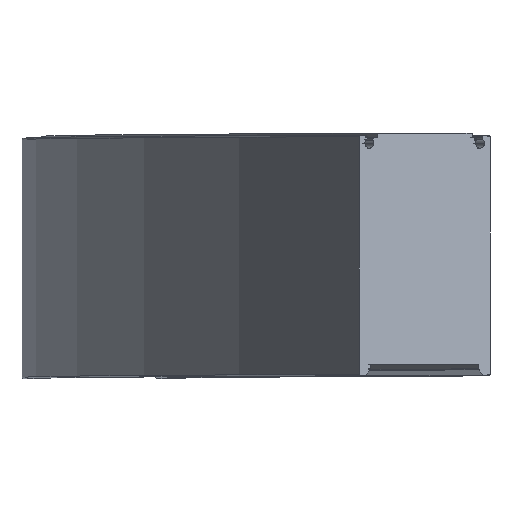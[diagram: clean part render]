
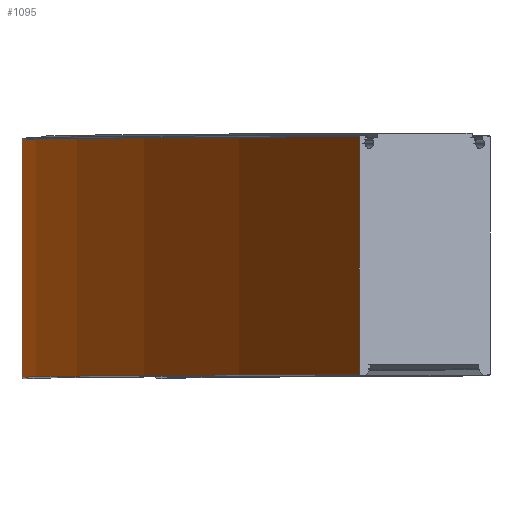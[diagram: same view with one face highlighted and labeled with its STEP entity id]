
A CAD part, top view. The second image highlights one B-rep face of the part: STEP entity #1095.
In plain terms, the highlighted cylindrical face has radius 1473.5 mm (diameter 2947 mm), a partial arc.
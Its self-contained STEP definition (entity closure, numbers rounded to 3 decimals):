
#17 = AXIS2_PLACEMENT_3D ( 'NONE', #1295, #1427, #28 ) ;
#28 = DIRECTION ( 'NONE',  ( -1., 0., 0. ) ) ;
#55 = ORIENTED_EDGE ( 'NONE', *, *, #962, .F. ) ;
#93 = DIRECTION ( 'NONE',  ( -1., 0., 0. ) ) ;
#173 = EDGE_CURVE ( 'NONE', #259, #1530, #304, .T. ) ;
#201 = FACE_OUTER_BOUND ( 'NONE', #885, .T. ) ;
#248 = EDGE_CURVE ( 'NONE', #259, #997, #1365, .T. ) ;
#259 = VERTEX_POINT ( 'NONE', #341 ) ;
#304 = CIRCLE ( 'NONE', #17, 1473.5 ) ;
#341 = CARTESIAN_POINT ( 'NONE',  ( -23.5, 79.5, 0. ) ) ;
#435 = ORIENTED_EDGE ( 'NONE', *, *, #173, .F. ) ;
#448 = DIRECTION ( 'NONE',  ( 0., -1., 0. ) ) ;
#504 = CARTESIAN_POINT ( 'NONE',  ( -23.5, 0.5, 0. ) ) ;
#552 = VERTEX_POINT ( 'NONE', #1417 ) ;
#582 = AXIS2_PLACEMENT_3D ( 'NONE', #718, #725, #604 ) ;
#600 = VECTOR ( 'NONE', #619, 1000. ) ;
#604 = DIRECTION ( 'NONE',  ( 0., 0., 1. ) ) ;
#619 = DIRECTION ( 'NONE',  ( 0., -1., 0. ) ) ;
#712 = VECTOR ( 'NONE', #448, 1000. ) ;
#718 = CARTESIAN_POINT ( 'NONE',  ( 1450., 0., 0. ) ) ;
#725 = DIRECTION ( 'NONE',  ( 0., 1., 0. ) ) ;
#832 = AXIS2_PLACEMENT_3D ( 'NONE', #1099, #973, #93 ) ;
#840 = ORIENTED_EDGE ( 'NONE', *, *, #1077, .T. ) ;
#845 = ORIENTED_EDGE ( 'NONE', *, *, #248, .T. ) ;
#885 = EDGE_LOOP ( 'NONE', ( #840, #55, #435, #845 ) ) ;
#902 = CARTESIAN_POINT ( 'NONE',  ( 88.664, 79.5, 563.884 ) ) ;
#962 = EDGE_CURVE ( 'NONE', #1530, #552, #1303, .T. ) ;
#973 = DIRECTION ( 'NONE',  ( 0., 1., 0. ) ) ;
#997 = VERTEX_POINT ( 'NONE', #504 ) ;
#998 = CARTESIAN_POINT ( 'NONE',  ( 88.664, 79.5, 563.884 ) ) ;
#1077 = EDGE_CURVE ( 'NONE', #997, #552, #1222, .T. ) ;
#1095 = ADVANCED_FACE ( 'NONE', ( #201 ), #1342, .T. ) ;
#1099 = CARTESIAN_POINT ( 'NONE',  ( 1450., 0.5, 0. ) ) ;
#1222 = CIRCLE ( 'NONE', #832, 1473.5 ) ;
#1295 = CARTESIAN_POINT ( 'NONE',  ( 1450., 79.5, 0. ) ) ;
#1303 = LINE ( 'NONE', #998, #600 ) ;
#1342 = CYLINDRICAL_SURFACE ( 'NONE', #582, 1473.5 ) ;
#1365 = LINE ( 'NONE', #1557, #712 ) ;
#1417 = CARTESIAN_POINT ( 'NONE',  ( 88.664, 0.5, 563.884 ) ) ;
#1427 = DIRECTION ( 'NONE',  ( 0., 1., 0. ) ) ;
#1530 = VERTEX_POINT ( 'NONE', #902 ) ;
#1557 = CARTESIAN_POINT ( 'NONE',  ( -23.5, 79.5, 0. ) ) ;
